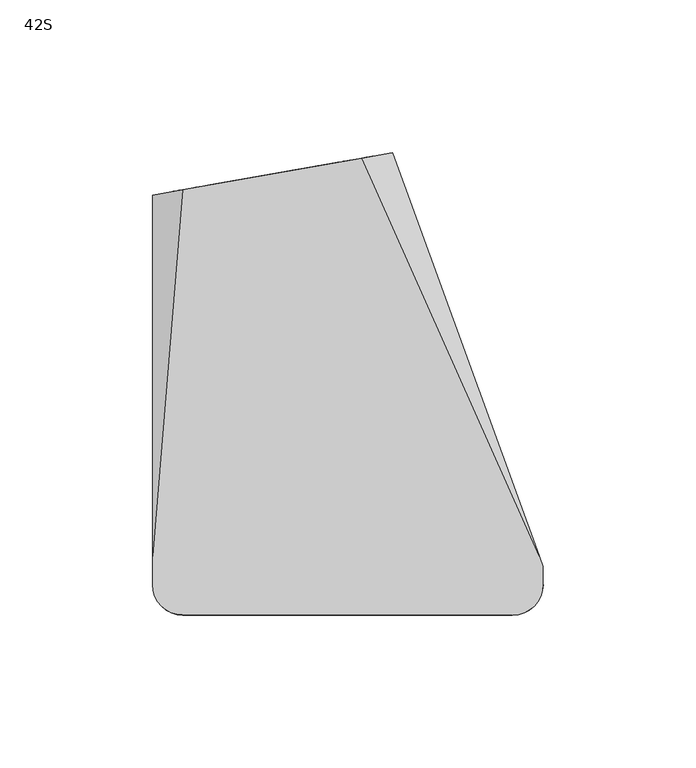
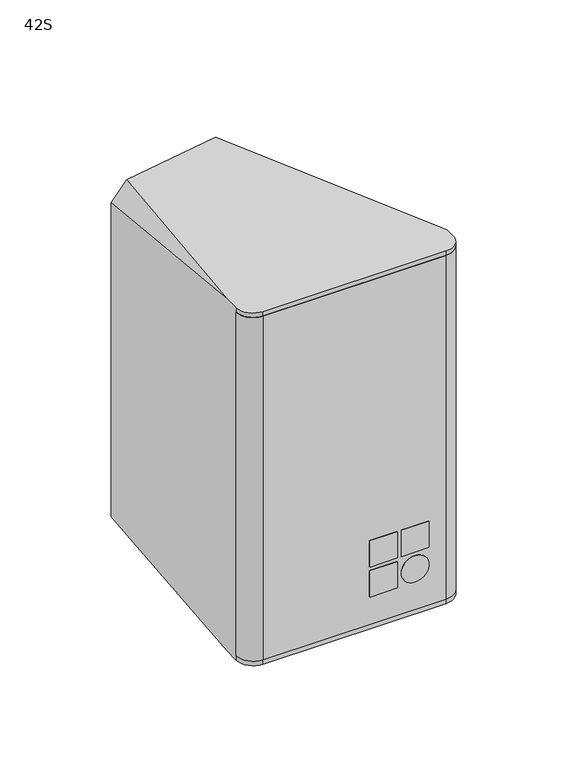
"""IFC4 building model written with IfcOpenShell, lengths in millimetres: proxy geometry, d&b xS-Series 42S Point Source : 42S."""

from ifc_helpers import new_model, si_unit, point, frame, frame_2d, origin, place, context, project, spatial, polyline, circle_curve, ellipse_curve, trimmed, segment, composite_curve, outline, extrude, source, transform, mapped, element, save
from ifc_brep_helpers import plane_surface, cylinder_surface, revolved_surface, advanced_brep


def proxy_42s_6af7a05f(model_context):
    return source(origin(), model_context, "Body", "SolidModel", [
        extrude(outline(polyline([(25.3333333, -76.0), (9.0, -76.0), (9.0, -71.0), (25.3333333, -71.0), (25.3333333, -76.0)])), frame((0.0, 0.0, -90.0), z_axis=(0.0, 0.0, 1.0), x_axis=(1.0, 0.0, 0.0)), (0.0, 0.0, 1.0), 16.3333333),
        extrude(outline(polyline([(25.3333333, -76.0), (9.0, -76.0), (9.0, -71.0), (25.3333333, -71.0), (25.3333333, -76.0)])), frame((0.0, 0.0, -71.3333333), z_axis=(0.0, 0.0, 1.0), x_axis=(1.0, 0.0, 0.0)), (0.0, 0.0, 1.0), 16.3333333),
        extrude(outline(polyline([(44.0, -76.0), (27.6666667, -76.0), (27.6666667, -71.0), (44.0, -71.0), (44.0, -76.0)])), frame((0.0, 0.0, -71.3333333), z_axis=(0.0, 0.0, 1.0), x_axis=(1.0, 0.0, 0.0)), (0.0, 0.0, 1.0), 16.3333333),
        extrude(outline(composite_curve([segment(trimmed(circle_curve(frame_2d((-81.8333333, 35.8333333)), 8.1666667), [point((-73.6666667, 35.8333333))], [point((-90.0, 35.8333333))], False, "CARTESIAN"), True, "CONTINUOUS"), segment(trimmed(circle_curve(frame_2d((-81.8333333, 35.8333333)), 8.1666667), [point((-90.0, 35.8333333))], [point((-73.6666667, 35.8333333))], False, "CARTESIAN"), True, "CONTINUOUS")], self_intersect=False)), frame((0.0, -76.0, 0.0), z_axis=(0.0, 1.0, 0.0), x_axis=(0.0, 0.0, 1.0)), (0.0, 0.0, 1.0), 5.0),
        extrude(outline(composite_curve([segment(trimmed(circle_curve(frame_2d((54.0, -65.9650952)), 8.0), [point((54.0, -73.9650952))], [point((62.0, -65.9650952))], True, "CARTESIAN"), True, "CONTINUOUS"), segment(polyline([(62.0, -65.9650952), (64.0349048, -65.9650952)]), True, "CONTINUOUS"), segment(trimmed(circle_curve(frame_2d((54.0, -65.9650952)), 10.0349048), [point((64.0349048, -65.9650952))], [point((54.0, -76.0))], False, "CARTESIAN"), True, "CONTINUOUS"), segment(polyline([(54.0, -76.0), (-54.0, -76.0)]), True, "CONTINUOUS"), segment(trimmed(circle_curve(frame_2d((-54.0, -66.0)), 10.0), [point((-54.0, -76.0))], [point((-64.0, -66.0))], False, "CARTESIAN"), True, "CONTINUOUS"), segment(polyline([(-64.0, -66.0), (-62.0435242, -66.0)]), True, "CONTINUOUS"), segment(trimmed(circle_curve(frame_2d((-54.078429, -66.0)), 7.9650952), [point((-62.0435242, -66.0))], [point((-54.078429, -73.9650952))], True, "CARTESIAN"), True, "CONTINUOUS"), segment(polyline([(-54.078429, -73.9650952), (54.0, -73.9650952)]), True, "CONTINUOUS")], self_intersect=False)), frame((0.0, 0.0, -107.0), z_axis=(0.0, 0.0, 1.0), x_axis=(1.0, 0.0, 0.0)), (0.0, 0.0, 1.0), 214.0),
        advanced_brep(
        [(-64.0, -66.0, 107.0), (-64.0, -66.0, -107.0), (-62.0435242, -66.0, -107.0), (-62.0435242, -66.0, 107.0), (-54.078429, -73.9650952, -107.0), (-54.078429, -73.9650952, 107.0), (54.0, -73.9650952, -107.0), (54.0, -73.9650952, 107.0), (62.0, -65.9650952, -107.0), (62.0, -65.9650952, 107.0), (64.0, -65.9650952, -107.0), (64.0, -65.9650952, 107.0), (64.0, -65.9650952, -109.8273531), (64.0, -60.0349048, -109.7253263), (64.0, -60.0349048, 109.7253263), (64.0, -65.9650952, 109.8273531), (-64.0, -66.0, 109.8279536), (-64.0, -56.6972655, 109.6679034), (-64.0, 61.6262346, 97.8946622), (-64.0, 61.6262346, -97.8946622), (-64.0, -56.6972655, -109.6679034), (-64.0, -66.0, -109.8279536), (14.6819894, 75.4999923, -96.5142171), (14.6819894, 75.4999923, 96.5142171), (62.7855103, -56.6972655, 109.6679034), (62.7855103, -56.6972655, -109.6679034), (-54.1190905, 63.3685056, 107.602215), (-54.1190905, 63.3685056, -107.602215), (4.5961827, 73.7215924, -107.4240938), (4.5961827, 73.7215924, 107.4240938), (-54.078429, -75.921571, 109.9986507), (54.0, -75.9650952, 109.9993995), (54.0, -75.9650952, -109.9993995), (-54.078429, -75.9650952, -109.9993995), (54.0, -75.9650952, 107.0), (-54.078429, -75.9650952, 107.0), (-45.1738745, 64.9457885, 95.447753), (-57.4839714, 62.7751863, 82.947753), (-57.4839714, 62.7751863, 67.052247), (-45.1738745, 64.9457885, 54.552247), (-4.2201563, 72.167034, 54.552247), (8.0899406, 74.3376362, 67.052247), (8.0899406, 74.3376362, 82.947753), (-4.2201563, 72.167034, 95.447753), (-45.1738745, 64.9457885, -52.1), (-57.4839714, 62.7751863, -64.6), (-57.4839714, 62.7751863, -82.4), (-45.1738745, 64.9457885, -94.9), (-4.2201563, 72.167034, -94.9), (8.0899406, 74.3376362, -82.4), (8.0899406, 74.3376362, -64.6), (-4.2201563, 72.167034, -52.1), (-44.3056336, 60.0217497, 95.447753), (-3.3519154, 67.2429952, 95.447753), (8.9581815, 69.4135974, 82.947753), (8.9581815, 69.4135974, 67.052247), (-3.3519154, 67.2429952, 54.552247), (-44.3056336, 60.0217497, 54.552247), (-56.6157306, 57.8511475, 67.052247), (-56.6157306, 57.8511475, 82.947753), (-44.3056336, 60.0217497, -52.1), (-3.3519154, 67.2429952, -52.1), (8.9581815, 69.4135974, -64.6), (8.9581815, 69.4135974, -82.4), (-3.3519154, 67.2429952, -94.9), (-44.3056336, 60.0217497, -94.9), (-56.6157306, 57.8511475, -82.4), (-56.6157306, 57.8511475, -64.6), (-54.078429, -75.921571, -107.0), (54.0, -75.9650952, -107.0)],
        [
            (0, 1),
            (1, 2),
            (2, 3),
            (3, 0),
            (2, 4, circle_curve(frame((-54.078429, -66.0, -107.0), z_axis=(0.0, 0.0, 1.0), x_axis=(-1.0, 0.0, 0.0)), 7.9650952)),
            (4, 5),
            (5, 3, circle_curve(frame((-54.078429, -66.0, 107.0), z_axis=(0.0, 0.0, -1.0), x_axis=(-1.0, 0.0, 0.0)), 7.9650952)),
            (4, 6),
            (6, 7),
            (7, 5),
            (6, 8, circle_curve(frame((54.0, -65.9650952, -107.0), z_axis=(0.0, 0.0, 1.0), x_axis=(-1.0, 0.0, 0.0)), 8.0)),
            (8, 9),
            (9, 7, circle_curve(frame((54.0, -65.9650952, 107.0), z_axis=(0.0, 0.0, -1.0), x_axis=(-1.0, 0.0, 0.0)), 8.0)),
            (8, 10),
            (10, 11),
            (11, 9),
            (10, 12),
            (12, 13),
            (13, 14),
            (14, 15),
            (15, 11),
            (0, 16),
            (16, 17),
            (17, 18),
            (18, 19),
            (19, 20),
            (20, 21),
            (21, 1),
            (22, 23),
            (23, 24),
            (24, 14),
            (13, 25),
            (25, 22),
            (26, 18),
            (17, 26),
            (19, 27),
            (27, 20),
            (28, 22),
            (25, 28),
            (23, 29),
            (29, 24),
            (29, 26),
            (16, 30, ellipse_curve(frame((-54.078429, -66.0, 109.8279536), z_axis=(0.0, 0.017202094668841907, 0.9998520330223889), x_axis=(0.0, -0.999852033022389, 0.017202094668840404)), 9.9230392, 9.921571)),
            (30, 31),
            (31, 15, ellipse_curve(frame((54.0, -65.9650952, 109.8273531), z_axis=(0.0, 0.017202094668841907, 0.9998520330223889), x_axis=(0.0, -0.999852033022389, 0.017202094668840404)), 10.0014799, 10.0)),
            (12, 32, ellipse_curve(frame((54.0, -65.9650952, -109.8273531), z_axis=(0.0, 0.0172020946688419, -0.9998520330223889), x_axis=(0.0, 0.9998520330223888, 0.01720209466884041)), 10.0014799, 10.0)),
            (32, 33),
            (33, 21, ellipse_curve(frame((-54.078429, -66.0, -109.8279536), z_axis=(0.0, 0.0172020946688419, -0.9998520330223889), x_axis=(0.0, 0.9998520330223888, 0.01720209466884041)), 9.9230392, 9.921571)),
            (27, 28),
            (11, 34, circle_curve(frame((54.0, -65.9650952, 107.0), z_axis=(0.0, 0.0, -1.0), x_axis=(-1.0, 0.0, 0.0)), 10.0)),
            (34, 35),
            (35, 0, circle_curve(frame((-54.078429, -66.0, 107.0), z_axis=(0.0, 0.0, -1.0), x_axis=(-1.0, 0.0, 0.0)), 9.921571)),
            (35, 30),
            (34, 31),
            (36, 37, circle_curve(frame((-45.1738745, 64.9457885, 82.947753), z_axis=(0.17364817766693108, -0.9848077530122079, 0.0), x_axis=(0.9848077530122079, 0.17364817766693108, 0.0)), 12.5)),
            (37, 38),
            (38, 39, circle_curve(frame((-45.1738745, 64.9457885, 67.052247), z_axis=(0.17364817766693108, -0.9848077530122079, 0.0), x_axis=(0.9848077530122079, 0.17364817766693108, 0.0)), 12.5)),
            (39, 40),
            (40, 41, circle_curve(frame((-4.2201563, 72.167034, 67.052247), z_axis=(0.17364817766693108, -0.9848077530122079, 0.0), x_axis=(0.9848077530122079, 0.17364817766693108, 0.0)), 12.5)),
            (41, 42),
            (42, 43, circle_curve(frame((-4.2201563, 72.167034, 82.947753), z_axis=(0.17364817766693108, -0.9848077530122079, 0.0), x_axis=(0.9848077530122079, 0.17364817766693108, 0.0)), 12.5)),
            (43, 36),
            (44, 45, circle_curve(frame((-45.1738745, 64.9457885, -64.6), z_axis=(0.17364817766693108, -0.9848077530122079, 0.0), x_axis=(0.9848077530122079, 0.17364817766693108, 0.0)), 12.5)),
            (45, 46),
            (46, 47, circle_curve(frame((-45.1738745, 64.9457885, -82.4), z_axis=(0.17364817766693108, -0.9848077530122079, 0.0), x_axis=(0.9848077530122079, 0.17364817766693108, 0.0)), 12.5)),
            (47, 48),
            (48, 49, circle_curve(frame((-4.2201563, 72.167034, -82.4), z_axis=(0.17364817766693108, -0.9848077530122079, 0.0), x_axis=(0.9848077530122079, 0.17364817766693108, 0.0)), 12.5)),
            (49, 50),
            (50, 51, circle_curve(frame((-4.2201563, 72.167034, -64.6), z_axis=(0.17364817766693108, -0.9848077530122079, 0.0), x_axis=(0.9848077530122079, 0.17364817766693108, 0.0)), 12.5)),
            (51, 44),
            (52, 53),
            (53, 54, circle_curve(frame((-3.3519154, 67.2429952, 82.947753), z_axis=(-0.17364817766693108, 0.9848077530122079, 0.0), x_axis=(0.9848077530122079, 0.17364817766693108, 0.0)), 12.5)),
            (54, 55),
            (55, 56, circle_curve(frame((-3.3519154, 67.2429952, 67.052247), z_axis=(-0.17364817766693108, 0.9848077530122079, 0.0), x_axis=(0.9848077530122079, 0.17364817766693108, 0.0)), 12.5)),
            (56, 57),
            (57, 58, circle_curve(frame((-44.3056336, 60.0217497, 67.052247), z_axis=(-0.17364817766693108, 0.9848077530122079, 0.0), x_axis=(0.9848077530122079, 0.17364817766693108, 0.0)), 12.5)),
            (58, 59),
            (59, 52, circle_curve(frame((-44.3056336, 60.0217497, 82.947753), z_axis=(-0.17364817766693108, 0.9848077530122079, 0.0), x_axis=(0.9848077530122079, 0.17364817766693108, 0.0)), 12.5)),
            (60, 61),
            (61, 62, circle_curve(frame((-3.3519154, 67.2429952, -64.6), z_axis=(-0.17364817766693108, 0.9848077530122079, 0.0), x_axis=(0.9848077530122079, 0.17364817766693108, 0.0)), 12.5)),
            (62, 63),
            (63, 64, circle_curve(frame((-3.3519154, 67.2429952, -82.4), z_axis=(-0.17364817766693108, 0.9848077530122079, 0.0), x_axis=(0.9848077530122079, 0.17364817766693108, 0.0)), 12.5)),
            (64, 65),
            (65, 66, circle_curve(frame((-44.3056336, 60.0217497, -82.4), z_axis=(-0.17364817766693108, 0.9848077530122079, 0.0), x_axis=(0.9848077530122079, 0.17364817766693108, 0.0)), 12.5)),
            (66, 67),
            (67, 60, circle_curve(frame((-44.3056336, 60.0217497, -64.6), z_axis=(-0.17364817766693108, 0.9848077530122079, 0.0), x_axis=(0.9848077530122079, 0.17364817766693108, 0.0)), 12.5)),
            (1, 68, circle_curve(frame((-54.078429, -66.0, -107.0), z_axis=(0.0, 0.0, 1.0), x_axis=(-1.0, 0.0, 0.0)), 9.921571)),
            (68, 69),
            (69, 10, circle_curve(frame((54.0, -65.9650952, -107.0), z_axis=(0.0, 0.0, 1.0), x_axis=(-1.0, 0.0, 0.0)), 10.0)),
            (33, 68),
            (32, 69),
            (59, 37),
            (36, 52),
            (58, 38),
            (57, 39),
            (56, 40),
            (55, 41),
            (54, 42),
            (53, 43),
            (67, 45),
            (44, 60),
            (66, 46),
            (65, 47),
            (64, 48),
            (63, 49),
            (62, 50),
            (61, 51),
        ],
        [
            plane_surface(frame((-64.0, -66.0, 107.0), z_axis=(0.0, -1.0, 0.0), x_axis=(0.0, 0.0, -1.0))),
            cylinder_surface(frame((-54.078429, -66.0, -107.0), z_axis=(0.0, 0.0, 1.0), x_axis=(-1.0, 0.0, 0.0)), 7.9650952),
            plane_surface(frame((-54.078429, -73.9650952, 107.0), z_axis=(0.0, -1.0, 0.0), x_axis=(0.0, 0.0, -1.0))),
            cylinder_surface(frame((54.0, -65.9650952, -107.0), z_axis=(0.0, 0.0, 1.0), x_axis=(-1.0, 0.0, 0.0)), 8.0),
            plane_surface(frame((62.0, -65.9650952, 107.0), z_axis=(0.0, -1.0, 0.0), x_axis=(0.0, 0.0, -1.0))),
            plane_surface(frame((64.0, -65.9650952, 107.0), z_axis=(1.0, 0.0, 0.0), x_axis=(0.0, 0.0, -1.0))),
            plane_surface(frame((-64.0, -60.0349048, 107.0), z_axis=(-1.0, 0.0, 0.0), x_axis=(0.0, 0.0, -1.0))),
            plane_surface(frame((14.5000481, 76.0, 0.0), z_axis=(0.9397208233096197, 0.3419426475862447, 0.0), x_axis=(0.0, 0.0, 1.0))),
            plane_surface(frame((-57.232233, 76.0, 103.232233), z_axis=(-0.7053631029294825, 0.07018394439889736, 0.7053631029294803), x_axis=(-0.7071067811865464, 0.0, -0.7071067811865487))),
            plane_surface(frame((-57.232233, 76.0, -103.232233), z_axis=(-0.7053631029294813, 0.07018394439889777, -0.7053631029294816), x_axis=(0.7071067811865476, 0.0, -0.7071067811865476))),
            plane_surface(frame((7.7322812, 76.0, -103.232233), z_axis=(0.6719558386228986, 0.31136907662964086, -0.671955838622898), x_axis=(0.7071067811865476, 0.0, 0.7071067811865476))),
            plane_surface(frame((7.7322812, 76.0, 103.232233), z_axis=(0.6719558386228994, 0.31136907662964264, 0.6719558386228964), x_axis=(-0.7071067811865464, 0.0, 0.7071067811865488))),
            plane_surface(frame((100.0, -97.3033587, 110.3665166), z_axis=(0.0, 0.017202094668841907, 0.9998520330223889), x_axis=(-1.0, 0.0, 0.0))),
            plane_surface(frame((100.0, 83.9889493, -107.2474477), z_axis=(0.0, 0.0172020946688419, -0.9998520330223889), x_axis=(-1.0, 0.0, 0.0))),
            plane_surface(frame((-64.0, -66.0, 107.0), z_axis=(0.0, 0.0, -1.0), x_axis=(0.0, 1.0, 0.0))),
            cylinder_surface(frame((-54.078429, -66.0, 107.0), z_axis=(0.0, 0.0, 1.0), x_axis=(-1.0, 0.0, 0.0)), 9.921571),
            plane_surface(frame((-54.078429, -75.9650952, 112.6426388), z_axis=(0.0, -1.0, 0.0), x_axis=(0.0, 0.0, -1.0))),
            cylinder_surface(frame((54.0, -65.9650952, 107.0), z_axis=(0.0, 0.0, 1.0), x_axis=(-1.0, 0.0, 0.0)), 10.0),
            plane_surface(frame((-81.2585403, 58.5830883, 250.0), z_axis=(-0.17364817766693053, 0.984807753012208, 0.0), x_axis=(0.0, 0.0, -1.0))),
            plane_surface(frame((-31.9955367, 62.192352, 82.947753), z_axis=(-0.17364817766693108, 0.9848077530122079, 0.0), x_axis=(0.0, 0.0, 1.0))),
            plane_surface(frame((-64.0, -66.0, -107.0), z_axis=(0.0, 0.0, 1.0), x_axis=(0.0, -1.0, 0.0))),
            cylinder_surface(frame((-54.078429, -66.0, -113.0), z_axis=(0.0, 0.0, 1.0), x_axis=(-1.0, 0.0, 0.0)), 9.921571),
            plane_surface(frame((-54.078429, -75.9650952, -107.0), z_axis=(0.0, -1.0, 0.0), x_axis=(0.0, 0.0, -1.0))),
            cylinder_surface(frame((54.0, -65.9650952, -113.0), z_axis=(0.0, 0.0, 1.0), x_axis=(-1.0, 0.0, 0.0)), 10.0),
            revolved_surface(polyline([(-31.995536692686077, 62.19235191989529, 82.947753), (-32.86377759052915, 67.11639073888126, 82.947753)]), (-45.1738745, 64.9457885, 82.947753), (0.17364817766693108, -0.9848077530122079, 0.0)),
            plane_surface(frame((-56.6157306, 57.8511475, 82.947753), z_axis=(0.9848077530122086, 0.17364817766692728, 0.0), x_axis=(-0.17364817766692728, 0.9848077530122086, 0.0))),
            revolved_surface(polyline([(-31.995536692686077, 62.19235191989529, 67.052247), (-32.86377759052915, 67.11639073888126, 67.052247)]), (-45.1738745, 64.9457885, 67.052247), (0.17364817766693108, -0.9848077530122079, 0.0)),
            plane_surface(frame((-44.3056336, 60.0217497, 54.552247), z_axis=(0.0, 0.0, 1.0), x_axis=(-0.17364817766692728, 0.9848077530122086, 0.0))),
            revolved_surface(polyline([(8.958181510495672, 69.41359740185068, 67.052247), (8.089940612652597, 74.33763622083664, 67.052247)]), (-4.2201563, 72.167034, 67.052247), (0.17364817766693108, -0.9848077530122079, 0.0)),
            plane_surface(frame((8.9581815, 69.4135974, 67.052247), z_axis=(-0.9848077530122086, -0.17364817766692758, 0.0), x_axis=(-0.17364817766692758, 0.9848077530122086, 0.0))),
            revolved_surface(polyline([(8.958181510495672, 69.41359740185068, 82.947753), (8.089940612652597, 74.33763622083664, 82.947753)]), (-4.2201563, 72.167034, 82.947753), (0.17364817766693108, -0.9848077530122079, 0.0)),
            plane_surface(frame((-3.3519154, 67.2429952, 95.447753), z_axis=(0.0, 0.0, -1.0), x_axis=(-0.17364817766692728, 0.9848077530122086, 0.0))),
            revolved_surface(polyline([(-31.995536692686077, 62.19235191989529, -64.6), (-32.86377759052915, 67.11639073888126, -64.6)]), (-45.1738745, 64.9457885, -64.6), (0.17364817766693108, -0.9848077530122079, 0.0)),
            plane_surface(frame((-56.6157306, 57.8511475, -64.6), z_axis=(0.9848077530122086, 0.17364817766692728, 0.0), x_axis=(-0.17364817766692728, 0.9848077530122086, 0.0))),
            revolved_surface(polyline([(-31.995536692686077, 62.19235191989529, -82.4), (-32.86377759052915, 67.11639073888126, -82.4)]), (-45.1738745, 64.9457885, -82.4), (0.17364817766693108, -0.9848077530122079, 0.0)),
            plane_surface(frame((-44.3056336, 60.0217497, -94.9), z_axis=(0.0, 0.0, 1.0), x_axis=(-0.17364817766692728, 0.9848077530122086, 0.0))),
            revolved_surface(polyline([(8.958181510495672, 69.41359740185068, -82.4), (8.089940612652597, 74.33763622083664, -82.4)]), (-4.2201563, 72.167034, -82.4), (0.17364817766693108, -0.9848077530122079, 0.0)),
            plane_surface(frame((8.9581815, 69.4135974, -82.4), z_axis=(-0.9848077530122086, -0.17364817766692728, 0.0), x_axis=(-0.17364817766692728, 0.9848077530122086, 0.0))),
            revolved_surface(polyline([(8.958181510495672, 69.41359740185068, -64.6), (8.089940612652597, 74.33763622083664, -64.6)]), (-4.2201563, 72.167034, -64.6), (0.17364817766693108, -0.9848077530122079, 0.0)),
            plane_surface(frame((-3.3519154, 67.2429952, -52.1), z_axis=(0.0, 0.0, -1.0), x_axis=(-0.17364817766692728, 0.9848077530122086, 0.0))),
        ],
        [
            (0, [[1, 2, 3, 4]]),
            (1, [[-3, 5, 6, 7]]),
            (2, [[-6, 8, 9, 10]]),
            (3, [[-9, 11, 12, 13]]),
            (4, [[-12, 14, 15, 16]]),
            (5, [[-15, 17, 18, 19, 20, 21]]),
            (6, [[-1, 22, 23, 24, 25, 26, 27, 28]]),
            (7, [[29, 30, 31, -19, 32, 33]]),
            (8, [[34, -24, 35]]),
            (9, [[-26, 36, 37]]),
            (10, [[38, -33, 39]]),
            (11, [[-30, 40, 41]]),
            (12, [[-20, -31, -41, 42, -35, -23, 43, 44, 45]]),
            (13, [[-18, 46, 47, 48, -27, -37, 49, -39, -32]]),
            (14, [[50, 51, 52, -4, -7, -10, -13, -16]]),
            (15, [[-52, 53, -43, -22]]),
            (16, [[-51, 54, -44, -53]]),
            (17, [[-50, -21, -45, -54]]),
            (18, [[-25, -34, -42, -40, -29, -38, -49, -36], [55, 56, 57, 58, 59, 60, 61, 62], [63, 64, 65, 66, 67, 68, 69, 70]]),
            (19, [[71, 72, 73, 74, 75, 76, 77, 78]]),
            (19, [[79, 80, 81, 82, 83, 84, 85, 86]]),
            (20, [[87, 88, 89, -14, -11, -8, -5, -2]]),
            (21, [[-87, -28, -48, 90]]),
            (22, [[-88, -90, -47, 91]]),
            (23, [[-89, -91, -46, -17]]),
            (24, [[-78, 92, -55, 93]]),
            (25, [[-77, 94, -56, -92]]),
            (26, [[-76, 95, -57, -94]]),
            (27, [[-75, 96, -58, -95]]),
            (28, [[-74, 97, -59, -96]]),
            (29, [[-73, 98, -60, -97]]),
            (30, [[-72, 99, -61, -98]]),
            (31, [[-71, -93, -62, -99]]),
            (32, [[-86, 100, -63, 101]]),
            (33, [[-85, 102, -64, -100]]),
            (34, [[-84, 103, -65, -102]]),
            (35, [[-83, 104, -66, -103]]),
            (36, [[-82, 105, -67, -104]]),
            (37, [[-81, 106, -68, -105]]),
            (38, [[-80, 107, -69, -106]]),
            (39, [[-79, -101, -70, -107]]),
        ],
    ),
        extrude(outline(composite_curve([segment(trimmed(circle_curve(frame_2d((0.0, -12.0)), 12.0), [point((0.0, -24.0))], [point((0.0, 0.0))], False, "CARTESIAN"), True, "CONTINUOUS"), segment(trimmed(circle_curve(frame_2d((0.0, -12.0)), 12.0), [point((0.0, 0.0))], [point((0.0, -24.0))], False, "CARTESIAN"), True, "CONTINUOUS")], self_intersect=False)), frame((-50.3782035, 58.9509918, -74.8471384), z_axis=(-0.17364817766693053, 0.984807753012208, 0.0), x_axis=(0.0, 0.0, -1.0)), (0.0, 0.0, 1.0), 5.0),
        extrude(outline(composite_curve([segment(trimmed(circle_curve(frame_2d((0.0, -42.0)), 12.0), [point((0.0, -54.0))], [point((0.0, -30.0))], False, "CARTESIAN"), True, "CONTINUOUS"), segment(trimmed(circle_curve(frame_2d((0.0, -42.0)), 12.0), [point((0.0, -30.0))], [point((0.0, -54.0))], False, "CARTESIAN"), True, "CONTINUOUS")], self_intersect=False)), frame((-50.3782035, 58.9509918, -74.8471384), z_axis=(-0.17364817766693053, 0.984807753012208, 0.0), x_axis=(0.0, 0.0, -1.0)), (0.0, 0.0, 1.0), 5.0),
    ])


if __name__ == "__main__":
    model = new_model("IFC4")
    model_context = context("Model", 3, world=origin())
    ifc_project = project(units=[si_unit("LENGTHUNIT", "METRE", prefix="MILLI")], contexts=[model_context])
    site = spatial("IfcSite", under=ifc_project)
    building = spatial("IfcBuilding", under=site)
    placement = place(None, origin())
    proxy_42s_shape = proxy_42s_6af7a05f(model_context)
    element("IfcBuildingElementProxy", 1, Name="d&b xS-Series 42S Point Source : 42S", ObjectType="d&b xS-Series 42S Point Source : 42S", at=placement, inside=building, context=model_context, shape_type="MappedRepresentation", body=[
        mapped(proxy_42s_shape, transform((0.0, 0.0, 0.0), x_axis=(1.0, 0.0, 0.0), y_axis=(0.0, 1.0, 0.0), z_axis=(0.0, 0.0, 1.0))),
    ])
    save(model, "model.ifc")
